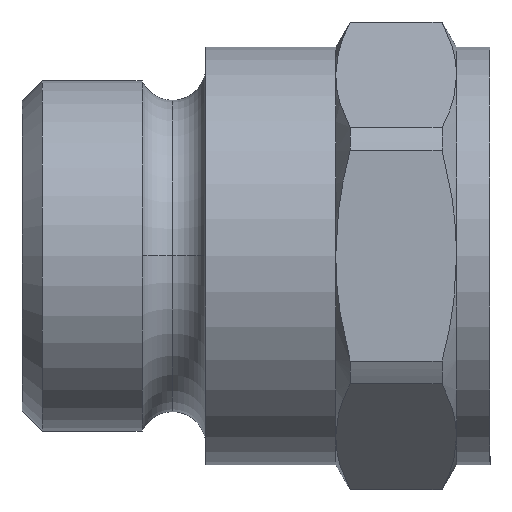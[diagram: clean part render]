
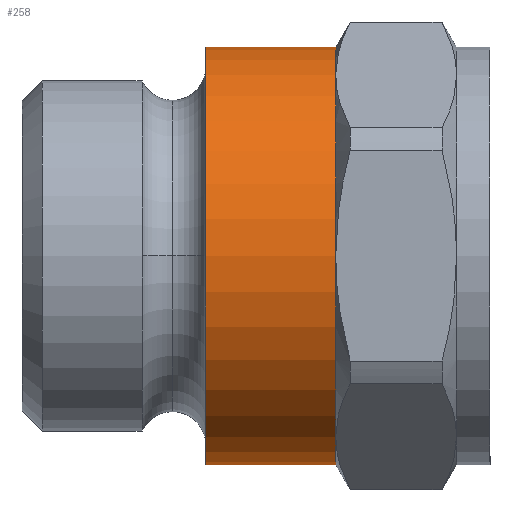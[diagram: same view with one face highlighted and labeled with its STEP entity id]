
A CAD part, top view. The second image highlights one B-rep face of the part: STEP entity #258.
In plain terms, the highlighted cylindrical face has radius 12.5 mm (diameter 25 mm), a partial arc.
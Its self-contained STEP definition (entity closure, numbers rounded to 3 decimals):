
#190=CARTESIAN_POINT('',(14.586,0.,0.0));
#191=DIRECTION('',(1.0,0.,0.0));
#192=DIRECTION('',(0.0,1.0,0.0));
#193=AXIS2_PLACEMENT_3D('',#190,#191,#192);
#194=CYLINDRICAL_SURFACE('',#193,12.5);
#195=CARTESIAN_POINT('',(11.,12.5,0.));
#196=VERTEX_POINT('',#195);
#197=CARTESIAN_POINT('',(18.768,12.5,0.));
#198=VERTEX_POINT('',#197);
#199=CARTESIAN_POINT('',(11.,12.5,0.));
#200=DIRECTION('',(1.0,0.0,0.0));
#201=VECTOR('',#200,7.768);
#202=LINE('',#199,#201);
#203=EDGE_CURVE('',#196,#198,#202,.T.);
#204=ORIENTED_EDGE('',*,*,#203,.F.);
#205=CARTESIAN_POINT('',(11.,-12.5,0.));
#206=VERTEX_POINT('',#205);
#207=CARTESIAN_POINT('',(11.,0.,0.0));
#208=DIRECTION('',(1.0,0.0,0.0));
#209=DIRECTION('',(0.0,1.0,0.0));
#210=AXIS2_PLACEMENT_3D('',#207,#208,#209);
#211=CIRCLE('',#210,12.5);
#212=EDGE_CURVE('',#196,#206,#211,.T.);
#213=ORIENTED_EDGE('',*,*,#212,.T.);
#214=CARTESIAN_POINT('',(18.768,-12.5,0.));
#215=VERTEX_POINT('',#214);
#216=CARTESIAN_POINT('',(18.768,-12.5,0.));
#217=DIRECTION('',(-1.0,0.0,0.0));
#218=VECTOR('',#217,7.768);
#219=LINE('',#216,#218);
#220=EDGE_CURVE('',#215,#206,#219,.T.);
#221=ORIENTED_EDGE('',*,*,#220,.F.);
#222=CARTESIAN_POINT('',(18.768,-10.825,6.25));
#223=VERTEX_POINT('',#222);
#224=CARTESIAN_POINT('',(18.768,0.,0.0));
#225=DIRECTION('',(1.0,0.0,0.0));
#226=DIRECTION('',(0.0,1.0,0.0));
#227=AXIS2_PLACEMENT_3D('',#224,#225,#226);
#228=CIRCLE('',#227,12.5);
#229=EDGE_CURVE('',#223,#215,#228,.T.);
#230=ORIENTED_EDGE('',*,*,#229,.F.);
#231=CARTESIAN_POINT('',(18.768,0.,12.5));
#232=VERTEX_POINT('',#231);
#233=CARTESIAN_POINT('',(18.768,0.,0.0));
#234=DIRECTION('',(1.0,0.0,0.0));
#235=DIRECTION('',(0.0,1.0,0.0));
#236=AXIS2_PLACEMENT_3D('',#233,#234,#235);
#237=CIRCLE('',#236,12.5);
#238=EDGE_CURVE('',#232,#223,#237,.T.);
#239=ORIENTED_EDGE('',*,*,#238,.F.);
#240=CARTESIAN_POINT('',(18.768,10.825,6.25));
#241=VERTEX_POINT('',#240);
#242=CARTESIAN_POINT('',(18.768,0.,0.0));
#243=DIRECTION('',(1.0,0.0,0.0));
#244=DIRECTION('',(0.0,1.0,0.0));
#245=AXIS2_PLACEMENT_3D('',#242,#243,#244);
#246=CIRCLE('',#245,12.5);
#247=EDGE_CURVE('',#241,#232,#246,.T.);
#248=ORIENTED_EDGE('',*,*,#247,.F.);
#249=CARTESIAN_POINT('',(18.768,0.,0.0));
#250=DIRECTION('',(1.0,0.0,0.0));
#251=DIRECTION('',(0.0,1.0,0.0));
#252=AXIS2_PLACEMENT_3D('',#249,#250,#251);
#253=CIRCLE('',#252,12.5);
#254=EDGE_CURVE('',#198,#241,#253,.T.);
#255=ORIENTED_EDGE('',*,*,#254,.F.);
#256=EDGE_LOOP('',(#204,#213,#221,#230,#239,#248,#255));
#257=FACE_OUTER_BOUND('',#256,.T.);
#258=ADVANCED_FACE('',(#257),#194,.T.);
